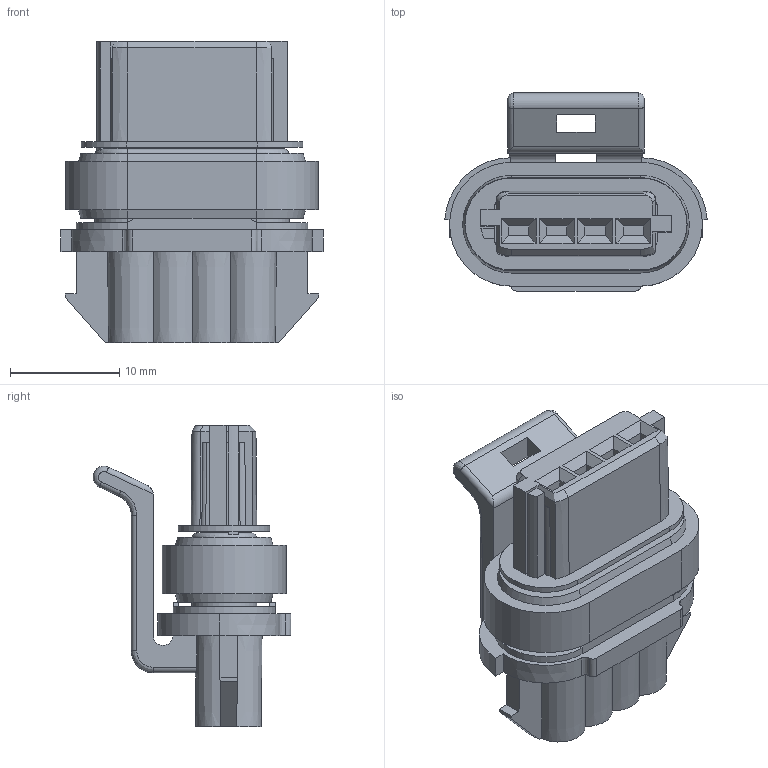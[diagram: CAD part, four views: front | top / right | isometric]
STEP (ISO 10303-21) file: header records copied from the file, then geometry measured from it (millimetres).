
FILE_DESCRIPTION(/* description */ (''),/* implementation_level */ '2;1');
FILE_NAME(/* name */ '15439568-ENV11_01-CONN.stp',/* time_stamp */ '2021-09-18T15:42:35+05:00',/* author */ (''),/* organization */ (''),/* preprocessor_version */ 'ST-DEVELOPER v16',/* originating_system */ 'SIEMENS PLM Software NX 11.0',/* authorisation */ '');
FILE_SCHEMA (('AP203_CONFIGURATION_CONTROLLED_3D_DESIGN_OF_MECHANICAL_PARTS_AND_ASSEMBLIES_MIM_LF { 1 0 10303 403 2 1 2}'));
Length unit declared in the file: millimetre
Products named in the file (1): hjcv348867DBm6us
Bounding box: 24.02 x 18.1 x 27.6 mm (x, y, z)
Volume: 4094.7 mm3; surface area: 2942.4 mm2
Topology: 1 solids, 1 shells, 219 faces, 597 edges, 388 vertices
Faces by surface type: plane 146, cylinder 41, cone 22, bspline 8, torus 2
Entity records: 7263 total; most frequent: CARTESIAN_POINT 1602, ORIENTED_EDGE 1194, DIRECTION 1124, EDGE_CURVE 597, LINE 402, VECTOR 402, VERTEX_POINT 388, AXIS2_PLACEMENT_3D 361
